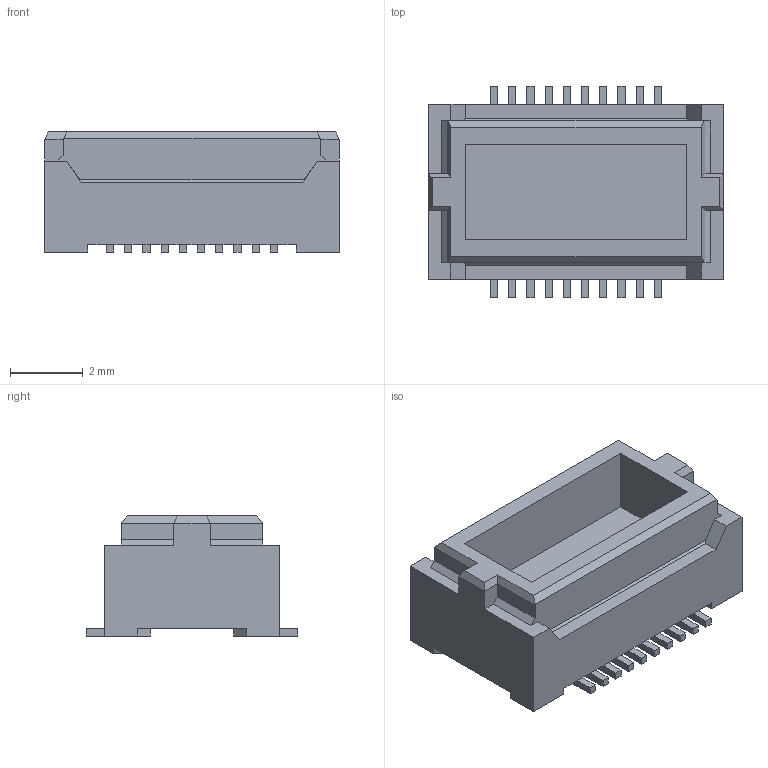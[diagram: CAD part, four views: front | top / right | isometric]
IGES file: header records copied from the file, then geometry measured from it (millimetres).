
Start section: SolidWorks IGES file using analytic representation for surfaces
Global section: file name: N:\Kamikawa_Hisako\★三次元モデル作成依頼\5046\X4_5046_XXX_XXX_XXX+_HP見直し\PLUG\14_5046_XXX_040(540)_XXX+\14_5046_020_040(540)_XXX+.IGS,15HSolidWorks; native system: 2017; preprocessor: SolidWorks 2017; author: HISAKO.KAMIKAWA.FJ; date: 211101.150951; units: millimetre
Bounding box: 8.1 x 5.8 x 3.3 mm (x, y, z)
Surface area: 205.8 mm2 (no closed solid volume)
Topology: 0 solids, 0 shells, 193 faces, 1244 edges, 1244 vertices
Faces by surface type: bspline 173, revolution 20
